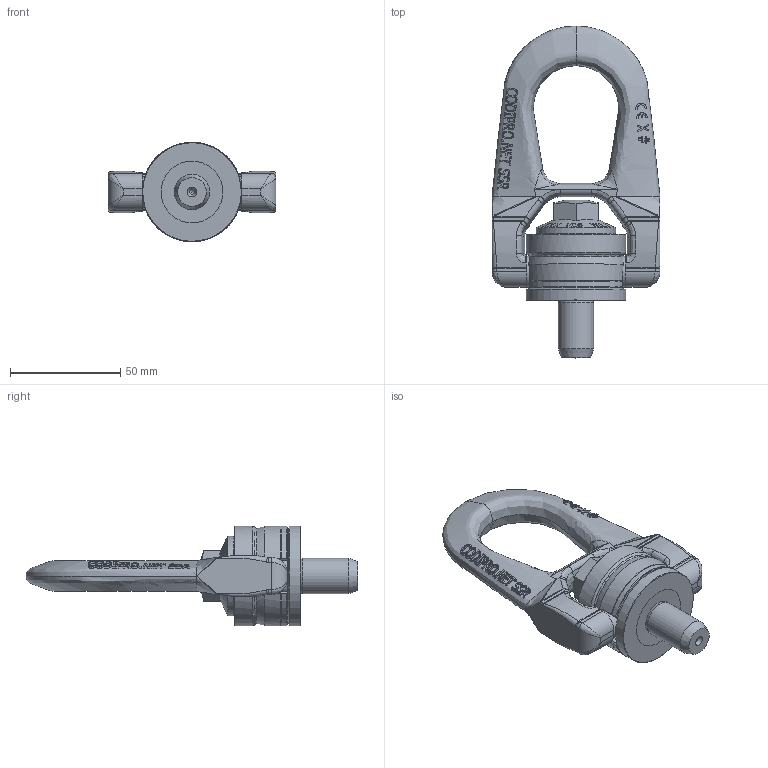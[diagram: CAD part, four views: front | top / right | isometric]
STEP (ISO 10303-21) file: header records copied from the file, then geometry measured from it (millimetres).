
FILE_DESCRIPTION(/* description */ (''),/* implementation_level */ '2;1');
FILE_NAME(/* name */ 'W:\CODIPRO\DOCUMENTS\Plans A NE PAS DIFFUSER !!!\Fichiers STEP\Gamme 2018\Produits NON GRADUP\SS DSR\SS DSR M16.stp',/* time_stamp */ '2017-09-26T13:07:27+02:00',/* author */ ('rklenes'),/* organization */ (''),/* preprocessor_version */ 'ST-DEVELOPER v16.5',/* originating_system */ 'Autodesk Inventor 2017',/* authorisation */ '');
FILE_SCHEMA (('AUTOMOTIVE_DESIGN { 1 0 10303 214 3 1 1 }'));
Products named in the file (5): SS DSR M16; DRM_AF2B-1; DRB_B2B; SS_DRA_M16X56; DRE_D2M16A
Assembly tree (4 placements, depth 2):
  SS DSR M16
    DRM_AF2B-1
    DRB_B2B
    SS_DRA_M16X56
    DRE_D2M16A
Bounding box: 76 x 150.25 x 45 mm (x, y, z)
Volume: 112708.4 mm3; surface area: 36341.4 mm2
Topology: 4 solids, 4 shells, 804 faces, 2103 edges, 1339 vertices
Faces by surface type: plane 360, bspline 307, cylinder 81, cone 44, torus 11, sphere 1
Full cylindrical faces by diameter (mm): 2 x1, 14 x2, 16 x3, 16.2 x1, 22.6 x2, 23 x2, 32 x1, 36 x1, 45 x2
Entity records: 43898 total; most frequent: CARTESIAN_POINT 26390, ORIENTED_EDGE 4094, DIRECTION 2802, EDGE_CURVE 2047, VERTEX_POINT 1331, AXIS2_PLACEMENT_3D 1042, EDGE_LOOP 890, FACE_OUTER_BOUND 804
